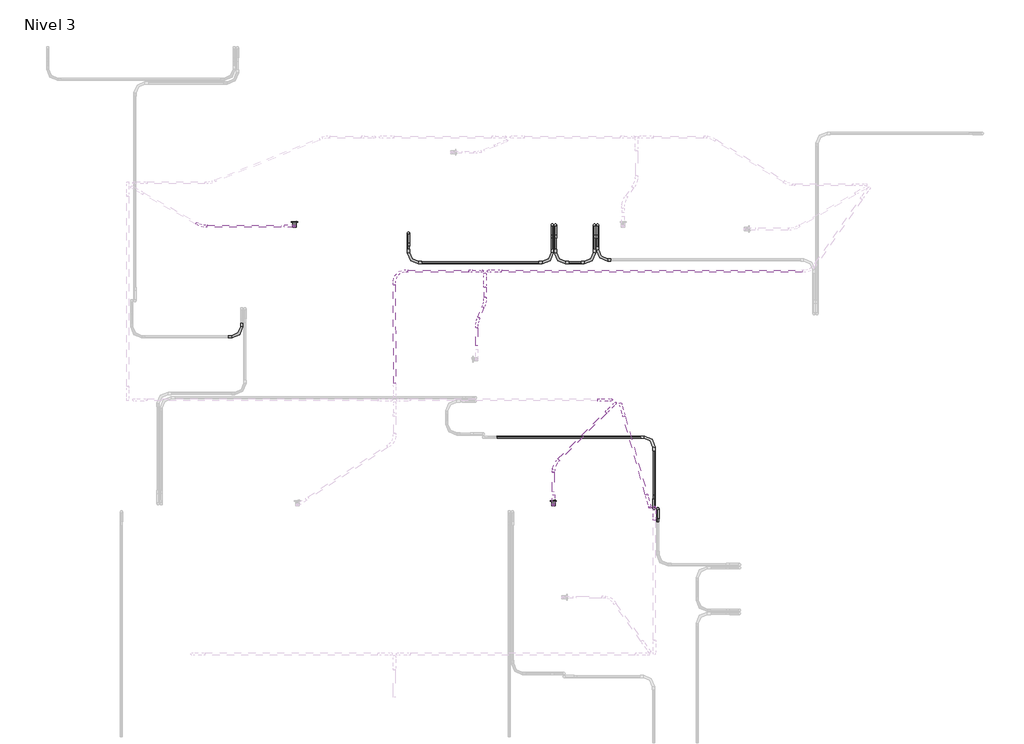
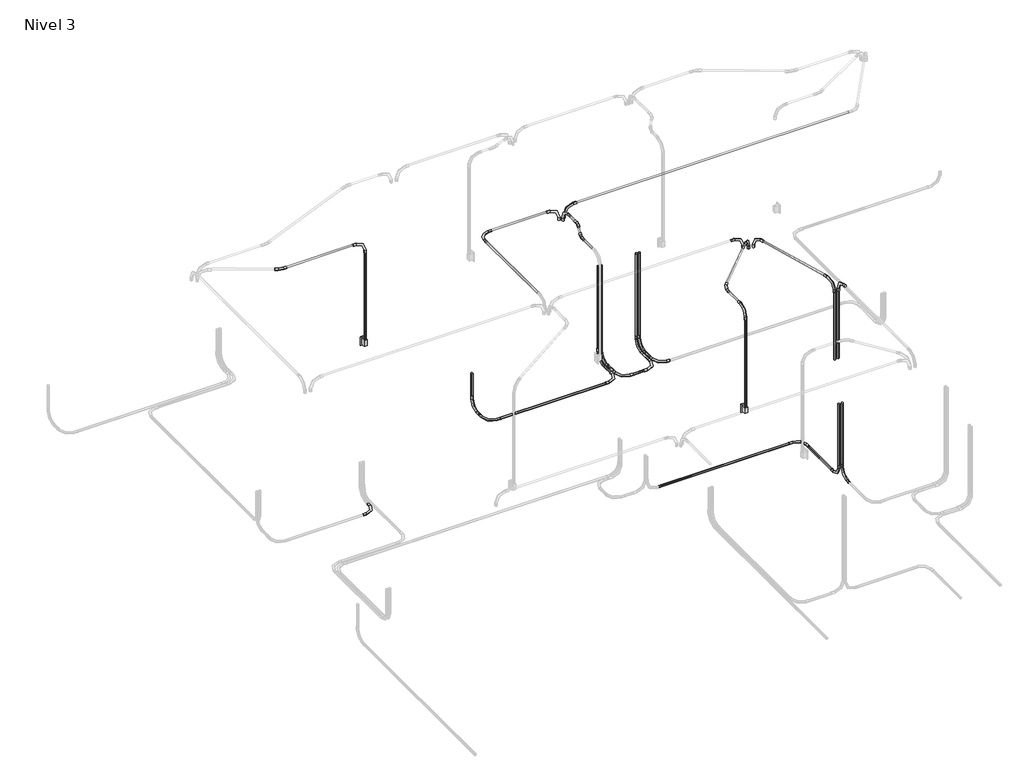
# One storey, part 8 of 9: 30 cable carrier segments, 29 cable carrier fittings, 2 switching devices.
"""IFC4 building model written with IfcOpenShell, lengths in millimetres."""

from ifc_helpers import new_model, si_unit, point, frame, frame_2d, origin, place, context, project, spatial, circle_curve, trimmed, segment, composite_curve, outline, extrude, transform, mapped, element, save
from components import m_codo_de_tubo_extremo_liso_pvc_9da73e12, m_codo_de_tubo_extremo_liso_pvc_102f0f41, m_codo_de_tubo_extremo_liso_pvc_251627db, m_codo_de_tubo_extremo_liso_pvc_2ef7902a, m_codo_de_tubo_extremo_liso_pvc_be22f626, m_codo_de_tubo_extremo_liso_pvc_8d6d9c39, switching_device_22fed34b

model = new_model("IFC4")

# Units and contexts
model_context = context("Model", 3, world=origin())
ifc_project = project(units=[si_unit("LENGTHUNIT", "METRE", prefix="MILLI")], contexts=[model_context])

# Site, building, storey
site = spatial("IfcSite", under=ifc_project)
building = spatial("IfcBuilding", under=site)
storey = spatial("IfcBuildingStorey", under=building, Name="Nivel 3", Elevation=5450.0)

# Cable carrier fittings
placement = place(None, origin())
m_codo_de_tubo_extremo_liso_pvc_shape = m_codo_de_tubo_extremo_liso_pvc_9da73e12(model_context)
element("IfcCableCarrierFitting", 1, ObjectType="M_Codo de tubo - Extremo liso - PVC : CODO POTENCIA", at=placement, inside=storey, context=model_context, shape_type="MappedRepresentation", body=[
    mapped(m_codo_de_tubo_extremo_liso_pvc_shape, transform((4205.019202, 15520.3628882, 5380.0), x_axis=(0.0, 0.0, -1.0), y_axis=(0.0, -1.0, 0.0), z_axis=(-1.0, 0.0, 0.0))),
])
element("IfcCableCarrierFitting", 2, ObjectType="M_Codo de tubo - Extremo liso - PVC : CODO POTENCIA", at=placement, inside=storey, context=model_context, shape_type="MappedRepresentation", body=[
    mapped(m_codo_de_tubo_extremo_liso_pvc_shape, transform((4241.0828417, 15520.3628882, 5380.0), x_axis=(0.0, 0.0, -1.0), y_axis=(0.0, -1.0, 0.0), z_axis=(-1.0, 0.0, 0.0))),
])
element("IfcCableCarrierFitting", 3, ObjectType="M_Codo de tubo - Extremo liso - PVC : CODO POTENCIA", at=placement, inside=storey, context=model_context, shape_type="MappedRepresentation", body=[
    mapped(m_codo_de_tubo_extremo_liso_pvc_shape, transform((4686.8857412, 15520.3628882, 5380.0), x_axis=(0.0, 0.0, -1.0), y_axis=(0.0, -1.0, 0.0), z_axis=(-1.0, 0.0, 0.0))),
])
element("IfcCableCarrierFitting", 4, ObjectType="M_Codo de tubo - Extremo liso - PVC : CODO POTENCIA", at=placement, inside=storey, context=model_context, shape_type="MappedRepresentation", body=[
    mapped(m_codo_de_tubo_extremo_liso_pvc_shape, transform((4722.9493809, 15520.3628882, 5380.0), x_axis=(0.0, 0.0, -1.0), y_axis=(0.0, -1.0, 0.0), z_axis=(-1.0, 0.0, 0.0))),
])
element("IfcCableCarrierFitting", 5, ObjectType="M_Codo de tubo - Extremo liso - PVC : CODO POTENCIA", at=placement, inside=storey, context=model_context, shape_type="MappedRepresentation", body=[
    mapped(m_codo_de_tubo_extremo_liso_pvc_shape, transform((2562.4928095, 15429.6371118, 5380.0), x_axis=(0.0, 0.0, -1.0), y_axis=(0.0, -1.0, 0.0), z_axis=(-1.0, 0.0, 0.0))),
])
element("IfcCableCarrierFitting", 6, ObjectType="M_Codo de tubo - Extremo liso - PVC : CODO POTENCIA", at=placement, inside=storey, context=model_context, shape_type="MappedRepresentation", body=[
    mapped(m_codo_de_tubo_extremo_liso_pvc_shape, transform((4205.019202, 15089.6371118, 5380.0), x_axis=(1.0, 0.0, 0.0), y_axis=(0.0, 1.0, 0.0), z_axis=(0.0, 0.0, 1.0))),
])
element("IfcCableCarrierFitting", 7, ObjectType="M_Codo de tubo - Extremo liso - PVC : CODO POTENCIA", at=placement, inside=storey, context=model_context, shape_type="MappedRepresentation", body=[
    mapped(m_codo_de_tubo_extremo_liso_pvc_shape, transform((2562.4928095, 15089.6371118, 5380.0), x_axis=(0.0, -1.0, 0.0), y_axis=(1.0, 0.0, 0.0), z_axis=(0.0, 0.0, 1.0))),
])
element("IfcCableCarrierFitting", 8, ObjectType="M_Codo de tubo - Extremo liso - PVC : CODO POTENCIA", at=placement, inside=storey, context=model_context, shape_type="MappedRepresentation", body=[
    mapped(m_codo_de_tubo_extremo_liso_pvc_shape, transform((4686.8857412, 15089.6371118, 5380.0), x_axis=(1.0, 0.0, 0.0), y_axis=(0.0, 1.0, 0.0), z_axis=(0.0, 0.0, 1.0))),
])
element("IfcCableCarrierFitting", 9, ObjectType="M_Codo de tubo - Extremo liso - PVC : CODO POTENCIA", at=placement, inside=storey, context=model_context, shape_type="MappedRepresentation", body=[
    mapped(m_codo_de_tubo_extremo_liso_pvc_shape, transform((4241.0828417, 15089.6371118, 5380.0), x_axis=(0.0, -1.0, 0.0), y_axis=(1.0, 0.0, 0.0), z_axis=(0.0, 0.0, 1.0))),
])
element("IfcCableCarrierFitting", 10, ObjectType="M_Codo de tubo - Extremo liso - PVC : CODO POTENCIA", at=placement, inside=storey, context=model_context, shape_type="MappedRepresentation", body=[
    mapped(m_codo_de_tubo_extremo_liso_pvc_shape, transform((4722.9493809, 15120.3628882, 5380.0), x_axis=(0.0, -1.0, 0.0), y_axis=(1.0, 0.0, 0.0), z_axis=(0.0, 0.0, 1.0))),
])
element("IfcCableCarrierFitting", 11, ObjectType="M_Codo de tubo - Extremo liso - PVC : CODO POTENCIA", at=placement, inside=storey, context=model_context, shape_type="MappedRepresentation", body=[
    mapped(m_codo_de_tubo_extremo_liso_pvc_shape, transform((5369.121413, 13095.2791789, 5380.0), x_axis=(0.0, 1.0, 0.0), y_axis=(-1.0, 0.0, 0.0), z_axis=(0.0, 0.0, 1.0))),
])
element("IfcCableCarrierFitting", 12, ObjectType="M_Codo de tubo - Extremo liso - PVC : CODO POTENCIA", at=placement, inside=storey, context=model_context, shape_type="MappedRepresentation", body=[
    mapped(m_codo_de_tubo_extremo_liso_pvc_shape, transform((657.4498733, 14243.117219, 5380.0), x_axis=(1.0, 0.0, 0.0), y_axis=(0.0, 1.0, 0.0), z_axis=(0.0, 0.0, 1.0))),
])
element("IfcCableCarrierFitting", 13, ObjectType="M_Codo de tubo - Extremo liso - PVC : CODO POTENCIA", at=placement, inside=storey, context=model_context, shape_type="MappedRepresentation", body=[
    mapped(m_codo_de_tubo_extremo_liso_pvc_shape, transform((5369.121413, 12279.3432469, 5380.0), x_axis=(0.0, -1.0, 0.0), y_axis=(0.0, 0.0, 1.0), z_axis=(-1.0, 0.0, 0.0))),
])
element("IfcCableCarrierFitting", 14, ObjectType="M_Codo de tubo - Extremo liso - PVC : CODO POTENCIA", at=placement, inside=storey, context=model_context, shape_type="MappedRepresentation", body=[
    mapped(m_codo_de_tubo_extremo_liso_pvc_shape, transform((5411.447338, 12279.3432469, 5380.0), x_axis=(0.0, 1.0, 0.0), y_axis=(0.0, 0.0, 1.0), z_axis=(1.0, 0.0, 0.0))),
])
element("IfcCableCarrierFitting", 15, ObjectType="M_Codo de tubo - Extremo liso - PVC : CODO ILUMINACION", at=placement, inside=storey, context=model_context, shape_type="MappedRepresentation", body=[
    mapped(m_codo_de_tubo_extremo_liso_pvc_shape, transform((3473.8320808, 14993.0705266, 8000.0), x_axis=(-1.0, 0.0, 0.0), y_axis=(0.0, 0.0, -1.0), z_axis=(0.0, -1.0, 0.0))),
])
element("IfcCableCarrierFitting", 16, ObjectType="M_Codo de tubo - Extremo liso - PVC : CODO ILUMINACION", at=placement, inside=storey, context=model_context, shape_type="MappedRepresentation", body=[
    mapped(m_codo_de_tubo_extremo_liso_pvc_shape, transform((1260.0916868, 15506.8611243, 8000.0), x_axis=(0.0, 0.0, 1.0), y_axis=(-1.0, 0.0, 0.0), z_axis=(0.0, -1.0, 0.0))),
])
element("IfcCableCarrierFitting", 17, ObjectType="M_Codo de tubo - Extremo liso - PVC : CODO ILUMINACION", at=placement, inside=storey, context=model_context, shape_type="MappedRepresentation", body=[
    mapped(m_codo_de_tubo_extremo_liso_pvc_shape, transform((4983.2376641, 13478.0991033, 8000.0), x_axis=(-0.27563735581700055, 0.9612616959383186, 0.0), y_axis=(0.0, 0.0, -1.0000000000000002), z_axis=(-0.9612616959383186, -0.27563735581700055, 0.0))),
])
element("IfcCableCarrierFitting", 18, ObjectType="M_Codo de tubo - Extremo liso - PVC : CODO ILUMINACION", at=placement, inside=storey, context=model_context, shape_type="MappedRepresentation", body=[
    mapped(m_codo_de_tubo_extremo_liso_pvc_shape, transform((4926.5703208, 13485.4270766, 8000.0), x_axis=(0.7071067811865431, 0.707106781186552, 0.0), y_axis=(0.0, 0.0, -1.0), z_axis=(-0.707106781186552, 0.7071067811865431, 0.0))),
])
element("IfcCableCarrierFitting", 19, ObjectType="M_Codo de tubo - Extremo liso - PVC : CODO ILUMINACION", at=placement, inside=storey, context=model_context, shape_type="MappedRepresentation", body=[
    mapped(m_codo_de_tubo_extremo_liso_pvc_shape, transform((5322.9331414, 12293.4401892, 8000.0), x_axis=(0.2756373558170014, -0.9612616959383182, 0.0), y_axis=(0.0, 0.0, -1.0), z_axis=(0.9612616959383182, 0.2756373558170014, 0.0))),
])
element("IfcCableCarrierFitting", 20, ObjectType="M_Codo de tubo - Extremo liso - PVC : CODO ILUMINACION", at=placement, inside=storey, context=model_context, shape_type="MappedRepresentation", body=[
    mapped(m_codo_de_tubo_extremo_liso_pvc_shape, transform((4218.3978911, 12321.8611243, 8000.0), x_axis=(0.0, 0.0, 1.0), y_axis=(0.0, 1.0, 0.0), z_axis=(-1.0, 0.0, 0.0))),
])
element("IfcCableCarrierFitting", 21, ObjectType="M_Codo de tubo - Extremo liso - PVC : CODO ILUMINACION", at=placement, inside=storey, context=model_context, shape_type="MappedRepresentation", body=[
    mapped(m_codo_de_tubo_extremo_liso_pvc_shape, transform((5372.6243482, 12295.9653349, 8000.0), x_axis=(0.0, 1.0, 0.0), y_axis=(0.0, 0.0, -1.0), z_axis=(-1.0, 0.0, 0.0))),
])
m_codo_de_tubo_extremo_liso_pvc_2_shape = m_codo_de_tubo_extremo_liso_pvc_102f0f41(model_context)
element("IfcCableCarrierFitting", 22, ObjectType="M_Codo de tubo - Extremo liso - PVC : CODO ILUMINACION", at=placement, inside=storey, context=model_context, shape_type="MappedRepresentation", body=[
    mapped(m_codo_de_tubo_extremo_liso_pvc_2_shape, transform((3405.7998975, 14991.7385915, 8000.0), x_axis=(1.0, 0.0, 0.0), y_axis=(0.0, 0.0, 1.0), z_axis=(0.0, -1.0, 0.0))),
])
element("IfcCableCarrierFitting", 23, ObjectType="M_Codo de tubo - Extremo liso - PVC : CODO ILUMINACION", at=placement, inside=storey, context=model_context, shape_type="MappedRepresentation", body=[
    mapped(m_codo_de_tubo_extremo_liso_pvc_2_shape, transform((4879.8406576, 13521.2601744, 8000.0), x_axis=(1.0, 0.0, 0.0), y_axis=(0.0, 0.0, 1.0), z_axis=(0.0, -1.0, 0.0))),
])
element("IfcCableCarrierFitting", 24, ObjectType="M_Codo de tubo - Extremo liso - PVC : CODO ILUMINACION", at=placement, inside=storey, context=model_context, shape_type="MappedRepresentation", body=[
    mapped(m_codo_de_tubo_extremo_liso_pvc_2_shape, transform((3437.3696394, 14959.3016042, 8000.0), x_axis=(0.0, 1.0, 0.0), y_axis=(0.0, 0.0, 1.0), z_axis=(1.0, 0.0, 0.0))),
])
m_codo_de_tubo_extremo_liso_pvc_3_shape = m_codo_de_tubo_extremo_liso_pvc_251627db(model_context)
element("IfcCableCarrierFitting", 25, ObjectType="M_Codo de tubo - Extremo liso - PVC : CODO ILUMINACION", at=placement, inside=storey, context=model_context, shape_type="MappedRepresentation", body=[
    mapped(m_codo_de_tubo_extremo_liso_pvc_3_shape, transform((196.8317011, 15506.8611243, 8000.0), x_axis=(0.8722808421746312, -0.48900524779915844, 0.0), y_axis=(0.48900524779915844, 0.8722808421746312, 0.0), z_axis=(0.0, 0.0, 1.0))),
])
m_codo_de_tubo_extremo_liso_pvc_4_shape = m_codo_de_tubo_extremo_liso_pvc_2ef7902a(model_context)
element("IfcCableCarrierFitting", 26, ObjectType="M_Codo de tubo - Extremo liso - PVC : CODO ILUMINACION", at=placement, inside=storey, context=model_context, shape_type="MappedRepresentation", body=[
    mapped(m_codo_de_tubo_extremo_liso_pvc_4_shape, transform((3437.3696394, 14633.0300725, 8000.0), x_axis=(0.38237306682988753, 0.924008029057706, 0.0), y_axis=(-0.924008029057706, 0.38237306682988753, 0.0), z_axis=(0.0, 0.0, 1.0))),
])
element("IfcCableCarrierFitting", 27, ObjectType="M_Codo de tubo - Extremo liso - PVC : CODO ILUMINACION", at=placement, inside=storey, context=model_context, shape_type="MappedRepresentation", body=[
    mapped(m_codo_de_tubo_extremo_liso_pvc_4_shape, transform((3343.1394564, 14405.3219698, 8000.0), x_axis=(-0.3823730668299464, -0.9240080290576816, 0.0), y_axis=(0.9240080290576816, -0.3823730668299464, 0.0), z_axis=(0.0, 0.0, 1.0))),
])
m_codo_de_tubo_extremo_liso_pvc_5_shape = m_codo_de_tubo_extremo_liso_pvc_be22f626(model_context)
element("IfcCableCarrierFitting", 28, ObjectType="M_Codo de tubo - Extremo liso - PVC : CODO ILUMINACION", at=placement, inside=storey, context=model_context, shape_type="MappedRepresentation", body=[
    mapped(m_codo_de_tubo_extremo_liso_pvc_5_shape, transform((2400.0109021, 14991.7385915, 8000.0), x_axis=(-1.0, 0.0, 0.0), y_axis=(0.0, -1.0, 0.0), z_axis=(0.0, 0.0, 1.0))),
])
m_codo_de_tubo_extremo_liso_pvc_6_shape = m_codo_de_tubo_extremo_liso_pvc_8d6d9c39(model_context)
element("IfcCableCarrierFitting", 29, ObjectType="M_Codo de tubo - Extremo liso - PVC : CODO ILUMINACION", at=placement, inside=storey, context=model_context, shape_type="MappedRepresentation", body=[
    mapped(m_codo_de_tubo_extremo_liso_pvc_6_shape, transform((4218.3978911, 12777.2546469, 8000.0), x_axis=(-0.7071067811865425, -0.7071067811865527, 0.0), y_axis=(0.7071067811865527, -0.7071067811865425, 0.0), z_axis=(0.0, 0.0, 1.0))),
])

# Cable carrier segments
element("IfcCableCarrierSegment", 30, ObjectType="PVC-SEL, POTENCIA", at=placement, inside=storey, context=model_context, shape_type="SweptSolid", body=[
    extrude(outline(composite_curve([segment(trimmed(circle_curve(frame_2d((5380.0, 4205.019202)), 11.71), [point((5380.0, 4193.309202))], [point((5368.29, 4205.019202))], False, "CARTESIAN"), True, "CONTINUOUS"), segment(trimmed(circle_curve(frame_2d((5380.0, 4205.019202)), 11.71), [point((5368.29, 4205.019202))], [point((5380.0, 4216.729202))], False, "CARTESIAN"), True, "CONTINUOUS"), segment(trimmed(circle_curve(frame_2d((5380.0, 4205.019202)), 11.71), [point((5380.0, 4216.729202))], [point((5391.71, 4205.019202))], False, "CARTESIAN"), True, "CONTINUOUS"), segment(trimmed(circle_curve(frame_2d((5380.0, 4205.019202)), 11.71), [point((5391.71, 4205.019202))], [point((5380.0, 4193.309202))], False, "CARTESIAN"), True, "CONTINUOUS")], self_intersect=False)), frame((0.0, 15242.0371118, 0.0), z_axis=(0.0, 1.0, 0.0), x_axis=(0.0, 0.0, 1.0)), (0.0, 0.0, 1.0), 125.9257764),
])
element("IfcCableCarrierSegment", 31, ObjectType="PVC-SEL, POTENCIA", at=placement, inside=storey, context=model_context, shape_type="SweptSolid", body=[
    extrude(outline(composite_curve([segment(trimmed(circle_curve(frame_2d((4205.019202, 15520.3628882)), 11.71), [point((4216.729202, 15520.3628882))], [point((4205.019202, 15508.6528882))], False, "CARTESIAN"), True, "CONTINUOUS"), segment(trimmed(circle_curve(frame_2d((4205.019202, 15520.3628882)), 11.71), [point((4205.019202, 15508.6528882))], [point((4193.309202, 15520.3628882))], False, "CARTESIAN"), True, "CONTINUOUS"), segment(trimmed(circle_curve(frame_2d((4205.019202, 15520.3628882)), 11.71), [point((4193.309202, 15520.3628882))], [point((4205.019202, 15532.0728882))], False, "CARTESIAN"), True, "CONTINUOUS"), segment(trimmed(circle_curve(frame_2d((4205.019202, 15520.3628882)), 11.71), [point((4205.019202, 15532.0728882))], [point((4216.729202, 15520.3628882))], False, "CARTESIAN"), True, "CONTINUOUS")], self_intersect=False)), frame((0.0, 0.0, 5532.4), z_axis=(0.0, 0.0, 1.0), x_axis=(1.0, 0.0, 0.0)), (0.0, 0.0, 1.0), 1097.3020537),
])
element("IfcCableCarrierSegment", 32, ObjectType="PVC-SEL, POTENCIA", at=placement, inside=storey, context=model_context, shape_type="SweptSolid", body=[
    extrude(outline(composite_curve([segment(trimmed(circle_curve(frame_2d((5380.0, 4241.0828417)), 11.71), [point((5380.0, 4229.3728417))], [point((5368.29, 4241.0828417))], False, "CARTESIAN"), True, "CONTINUOUS"), segment(trimmed(circle_curve(frame_2d((5380.0, 4241.0828417)), 11.71), [point((5368.29, 4241.0828417))], [point((5380.0, 4252.7928417))], False, "CARTESIAN"), True, "CONTINUOUS"), segment(trimmed(circle_curve(frame_2d((5380.0, 4241.0828417)), 11.71), [point((5380.0, 4252.7928417))], [point((5391.71, 4241.0828417))], False, "CARTESIAN"), True, "CONTINUOUS"), segment(trimmed(circle_curve(frame_2d((5380.0, 4241.0828417)), 11.71), [point((5391.71, 4241.0828417))], [point((5380.0, 4229.3728417))], False, "CARTESIAN"), True, "CONTINUOUS")], self_intersect=False)), frame((0.0, 15242.0371118, 0.0), z_axis=(0.0, 1.0, 0.0), x_axis=(0.0, 0.0, 1.0)), (0.0, 0.0, 1.0), 125.9257764),
])
element("IfcCableCarrierSegment", 33, ObjectType="PVC-SEL, POTENCIA", at=placement, inside=storey, context=model_context, shape_type="SweptSolid", body=[
    extrude(outline(composite_curve([segment(trimmed(circle_curve(frame_2d((4241.0828417, 15520.3628882)), 11.71), [point((4252.7928417, 15520.3628882))], [point((4241.0828417, 15508.6528882))], False, "CARTESIAN"), True, "CONTINUOUS"), segment(trimmed(circle_curve(frame_2d((4241.0828417, 15520.3628882)), 11.71), [point((4241.0828417, 15508.6528882))], [point((4229.3728417, 15520.3628882))], False, "CARTESIAN"), True, "CONTINUOUS"), segment(trimmed(circle_curve(frame_2d((4241.0828417, 15520.3628882)), 11.71), [point((4229.3728417, 15520.3628882))], [point((4241.0828417, 15532.0728882))], False, "CARTESIAN"), True, "CONTINUOUS"), segment(trimmed(circle_curve(frame_2d((4241.0828417, 15520.3628882)), 11.71), [point((4241.0828417, 15532.0728882))], [point((4252.7928417, 15520.3628882))], False, "CARTESIAN"), True, "CONTINUOUS")], self_intersect=False)), frame((0.0, 0.0, 5532.4), z_axis=(0.0, 0.0, 1.0), x_axis=(1.0, 0.0, 0.0)), (0.0, 0.0, 1.0), 1097.3020537),
])
element("IfcCableCarrierSegment", 34, ObjectType="PVC-SEL, POTENCIA", at=placement, inside=storey, context=model_context, shape_type="SweptSolid", body=[
    extrude(outline(composite_curve([segment(trimmed(circle_curve(frame_2d((5380.0, 4686.8857412)), 11.71), [point((5380.0, 4675.1757412))], [point((5368.29, 4686.8857412))], False, "CARTESIAN"), True, "CONTINUOUS"), segment(trimmed(circle_curve(frame_2d((5380.0, 4686.8857412)), 11.71), [point((5368.29, 4686.8857412))], [point((5380.0, 4698.5957412))], False, "CARTESIAN"), True, "CONTINUOUS"), segment(trimmed(circle_curve(frame_2d((5380.0, 4686.8857412)), 11.71), [point((5380.0, 4698.5957412))], [point((5391.71, 4686.8857412))], False, "CARTESIAN"), True, "CONTINUOUS"), segment(trimmed(circle_curve(frame_2d((5380.0, 4686.8857412)), 11.71), [point((5391.71, 4686.8857412))], [point((5380.0, 4675.1757412))], False, "CARTESIAN"), True, "CONTINUOUS")], self_intersect=False)), frame((0.0, 15242.0371118, 0.0), z_axis=(0.0, 1.0, 0.0), x_axis=(0.0, 0.0, 1.0)), (0.0, 0.0, 1.0), 125.9257764),
])
element("IfcCableCarrierSegment", 35, ObjectType="PVC-SEL, POTENCIA", at=placement, inside=storey, context=model_context, shape_type="SweptSolid", body=[
    extrude(outline(composite_curve([segment(trimmed(circle_curve(frame_2d((4686.8857412, 15520.3628882)), 11.71), [point((4698.5957412, 15520.3628882))], [point((4686.8857412, 15508.6528882))], False, "CARTESIAN"), True, "CONTINUOUS"), segment(trimmed(circle_curve(frame_2d((4686.8857412, 15520.3628882)), 11.71), [point((4686.8857412, 15508.6528882))], [point((4675.1757412, 15520.3628882))], False, "CARTESIAN"), True, "CONTINUOUS"), segment(trimmed(circle_curve(frame_2d((4686.8857412, 15520.3628882)), 11.71), [point((4675.1757412, 15520.3628882))], [point((4686.8857412, 15532.0728882))], False, "CARTESIAN"), True, "CONTINUOUS"), segment(trimmed(circle_curve(frame_2d((4686.8857412, 15520.3628882)), 11.71), [point((4686.8857412, 15532.0728882))], [point((4698.5957412, 15520.3628882))], False, "CARTESIAN"), True, "CONTINUOUS")], self_intersect=False)), frame((0.0, 0.0, 5532.4), z_axis=(0.0, 0.0, 1.0), x_axis=(1.0, 0.0, 0.0)), (0.0, 0.0, 1.0), 1097.3020537),
])
element("IfcCableCarrierSegment", 36, ObjectType="PVC-SEL, POTENCIA", at=placement, inside=storey, context=model_context, shape_type="SweptSolid", body=[
    extrude(outline(composite_curve([segment(trimmed(circle_curve(frame_2d((5380.0, 4722.9493809)), 11.71), [point((5380.0, 4711.2393809))], [point((5368.29, 4722.9493809))], False, "CARTESIAN"), True, "CONTINUOUS"), segment(trimmed(circle_curve(frame_2d((5380.0, 4722.9493809)), 11.71), [point((5368.29, 4722.9493809))], [point((5380.0, 4734.6593809))], False, "CARTESIAN"), True, "CONTINUOUS"), segment(trimmed(circle_curve(frame_2d((5380.0, 4722.9493809)), 11.71), [point((5380.0, 4734.6593809))], [point((5391.71, 4722.9493809))], False, "CARTESIAN"), True, "CONTINUOUS"), segment(trimmed(circle_curve(frame_2d((5380.0, 4722.9493809)), 11.71), [point((5391.71, 4722.9493809))], [point((5380.0, 4711.2393809))], False, "CARTESIAN"), True, "CONTINUOUS")], self_intersect=False)), frame((0.0, 15272.7628882, 0.0), z_axis=(0.0, 1.0, 0.0), x_axis=(0.0, 0.0, 1.0)), (0.0, 0.0, 1.0), 95.2),
])
element("IfcCableCarrierSegment", 37, ObjectType="PVC-SEL, POTENCIA", at=placement, inside=storey, context=model_context, shape_type="SweptSolid", body=[
    extrude(outline(composite_curve([segment(trimmed(circle_curve(frame_2d((4722.9493809, 15520.3628882)), 11.71), [point((4734.6593809, 15520.3628882))], [point((4722.9493809, 15508.6528882))], False, "CARTESIAN"), True, "CONTINUOUS"), segment(trimmed(circle_curve(frame_2d((4722.9493809, 15520.3628882)), 11.71), [point((4722.9493809, 15508.6528882))], [point((4711.2393809, 15520.3628882))], False, "CARTESIAN"), True, "CONTINUOUS"), segment(trimmed(circle_curve(frame_2d((4722.9493809, 15520.3628882)), 11.71), [point((4711.2393809, 15520.3628882))], [point((4722.9493809, 15532.0728882))], False, "CARTESIAN"), True, "CONTINUOUS"), segment(trimmed(circle_curve(frame_2d((4722.9493809, 15520.3628882)), 11.71), [point((4722.9493809, 15532.0728882))], [point((4734.6593809, 15520.3628882))], False, "CARTESIAN"), True, "CONTINUOUS")], self_intersect=False)), frame((0.0, 0.0, 5532.4), z_axis=(0.0, 0.0, 1.0), x_axis=(1.0, 0.0, 0.0)), (0.0, 0.0, 1.0), 1097.3020537),
])
element("IfcCableCarrierSegment", 38, ObjectType="PVC-SEL, POTENCIA", at=placement, inside=storey, context=model_context, shape_type="SweptSolid", body=[
    extrude(outline(composite_curve([segment(trimmed(circle_curve(frame_2d((5380.0, 2562.4928095)), 11.71), [point((5380.0, 2550.7828095))], [point((5368.29, 2562.4928095))], False, "CARTESIAN"), True, "CONTINUOUS"), segment(trimmed(circle_curve(frame_2d((5380.0, 2562.4928095)), 11.71), [point((5368.29, 2562.4928095))], [point((5380.0, 2574.2028095))], False, "CARTESIAN"), True, "CONTINUOUS"), segment(trimmed(circle_curve(frame_2d((5380.0, 2562.4928095)), 11.71), [point((5380.0, 2574.2028095))], [point((5391.71, 2562.4928095))], False, "CARTESIAN"), True, "CONTINUOUS"), segment(trimmed(circle_curve(frame_2d((5380.0, 2562.4928095)), 11.71), [point((5391.71, 2562.4928095))], [point((5380.0, 2550.7828095))], False, "CARTESIAN"), True, "CONTINUOUS")], self_intersect=False)), frame((0.0, 15242.0371118, 0.0), z_axis=(0.0, 1.0, 0.0), x_axis=(0.0, 0.0, 1.0)), (0.0, 0.0, 1.0), 35.2),
])
element("IfcCableCarrierSegment", 39, ObjectType="PVC-SEL, POTENCIA", at=placement, inside=storey, context=model_context, shape_type="SweptSolid", body=[
    extrude(outline(composite_curve([segment(trimmed(circle_curve(frame_2d((2562.4928095, 15429.6371118)), 11.71), [point((2574.2028095, 15429.6371118))], [point((2562.4928095, 15417.9271118))], False, "CARTESIAN"), True, "CONTINUOUS"), segment(trimmed(circle_curve(frame_2d((2562.4928095, 15429.6371118)), 11.71), [point((2562.4928095, 15417.9271118))], [point((2550.7828095, 15429.6371118))], False, "CARTESIAN"), True, "CONTINUOUS"), segment(trimmed(circle_curve(frame_2d((2562.4928095, 15429.6371118)), 11.71), [point((2550.7828095, 15429.6371118))], [point((2562.4928095, 15441.3471118))], False, "CARTESIAN"), True, "CONTINUOUS"), segment(trimmed(circle_curve(frame_2d((2562.4928095, 15429.6371118)), 11.71), [point((2562.4928095, 15441.3471118))], [point((2574.2028095, 15429.6371118))], False, "CARTESIAN"), True, "CONTINUOUS")], self_intersect=False)), frame((0.0, 0.0, 5532.4), z_axis=(0.0, 0.0, 1.0), x_axis=(1.0, 0.0, 0.0)), (0.0, 0.0, 1.0), 297.3020537),
])
element("IfcCableCarrierSegment", 40, ObjectType="PVC-SEL, POTENCIA", at=placement, inside=storey, context=model_context, shape_type="SweptSolid", body=[
    extrude(outline(composite_curve([segment(trimmed(circle_curve(frame_2d((15089.6371118, 5380.0)), 11.71), [point((15101.3471118, 5380.0))], [point((15089.6371118, 5368.29))], False, "CARTESIAN"), True, "CONTINUOUS"), segment(trimmed(circle_curve(frame_2d((15089.6371118, 5380.0)), 11.71), [point((15089.6371118, 5368.29))], [point((15077.9271118, 5380.0))], False, "CARTESIAN"), True, "CONTINUOUS"), segment(trimmed(circle_curve(frame_2d((15089.6371118, 5380.0)), 11.71), [point((15077.9271118, 5380.0))], [point((15089.6371118, 5391.71))], False, "CARTESIAN"), True, "CONTINUOUS"), segment(trimmed(circle_curve(frame_2d((15089.6371118, 5380.0)), 11.71), [point((15089.6371118, 5391.71))], [point((15101.3471118, 5380.0))], False, "CARTESIAN"), True, "CONTINUOUS")], self_intersect=False)), frame((2714.8928095, 0.0, 0.0), z_axis=(1.0, 0.0, 0.0), x_axis=(0.0, 1.0, 0.0)), (0.0, 0.0, 1.0), 1337.7263925),
])
element("IfcCableCarrierSegment", 41, ObjectType="PVC-SEL, POTENCIA", at=placement, inside=storey, context=model_context, shape_type="SweptSolid", body=[
    extrude(outline(composite_curve([segment(trimmed(circle_curve(frame_2d((15089.6371118, 5380.0)), 11.71), [point((15101.3471118, 5380.0))], [point((15089.6371118, 5368.29))], False, "CARTESIAN"), True, "CONTINUOUS"), segment(trimmed(circle_curve(frame_2d((15089.6371118, 5380.0)), 11.71), [point((15089.6371118, 5368.29))], [point((15077.9271118, 5380.0))], False, "CARTESIAN"), True, "CONTINUOUS"), segment(trimmed(circle_curve(frame_2d((15089.6371118, 5380.0)), 11.71), [point((15077.9271118, 5380.0))], [point((15089.6371118, 5391.71))], False, "CARTESIAN"), True, "CONTINUOUS"), segment(trimmed(circle_curve(frame_2d((15089.6371118, 5380.0)), 11.71), [point((15089.6371118, 5391.71))], [point((15101.3471118, 5380.0))], False, "CARTESIAN"), True, "CONTINUOUS")], self_intersect=False)), frame((4393.4828417, 0.0, 0.0), z_axis=(1.0, 0.0, 0.0), x_axis=(0.0, 1.0, 0.0)), (0.0, 0.0, 1.0), 141.0028996),
])
element("IfcCableCarrierSegment", 42, ObjectType="PVC-SEL, POTENCIA", at=placement, inside=storey, context=model_context, shape_type="SweptSolid", body=[
    extrude(outline(composite_curve([segment(trimmed(circle_curve(frame_2d((13095.2791789, 5380.0)), 11.71), [point((13083.5691789, 5380.0))], [point((13095.2791789, 5391.71))], False, "CARTESIAN"), True, "CONTINUOUS"), segment(trimmed(circle_curve(frame_2d((13095.2791789, 5380.0)), 11.71), [point((13095.2791789, 5391.71))], [point((13106.9891789, 5380.0))], False, "CARTESIAN"), True, "CONTINUOUS"), segment(trimmed(circle_curve(frame_2d((13095.2791789, 5380.0)), 11.71), [point((13106.9891789, 5380.0))], [point((13095.2791789, 5368.29))], False, "CARTESIAN"), True, "CONTINUOUS"), segment(trimmed(circle_curve(frame_2d((13095.2791789, 5380.0)), 11.71), [point((13095.2791789, 5368.29))], [point((13083.5691789, 5380.0))], False, "CARTESIAN"), True, "CONTINUOUS")], self_intersect=False)), frame((3572.763469, 0.0, 0.0), z_axis=(1.0, 0.0, 0.0), x_axis=(0.0, 1.0, 0.0)), (0.0, 0.0, 1.0), 1643.957944),
])
element("IfcCableCarrierSegment", 43, ObjectType="PVC-SEL, POTENCIA", at=placement, inside=storey, context=model_context, shape_type="SweptSolid", body=[
    extrude(outline(composite_curve([segment(trimmed(circle_curve(frame_2d((5380.0, 5369.121413)), 11.71), [point((5380.0, 5357.411413))], [point((5368.29, 5369.121413))], False, "CARTESIAN"), True, "CONTINUOUS"), segment(trimmed(circle_curve(frame_2d((5380.0, 5369.121413)), 11.71), [point((5368.29, 5369.121413))], [point((5380.0, 5380.831413))], False, "CARTESIAN"), True, "CONTINUOUS"), segment(trimmed(circle_curve(frame_2d((5380.0, 5369.121413)), 11.71), [point((5380.0, 5380.831413))], [point((5391.71, 5369.121413))], False, "CARTESIAN"), True, "CONTINUOUS"), segment(trimmed(circle_curve(frame_2d((5380.0, 5369.121413)), 11.71), [point((5391.71, 5369.121413))], [point((5380.0, 5357.411413))], False, "CARTESIAN"), True, "CONTINUOUS")], self_intersect=False)), frame((0.0, 12431.7432469, 0.0), z_axis=(0.0, 1.0, 0.0), x_axis=(0.0, 0.0, 1.0)), (0.0, 0.0, 1.0), 511.135932),
])
element("IfcCableCarrierSegment", 44, ObjectType="PVC-SEL, POTENCIA", at=placement, inside=storey, context=model_context, shape_type="SweptSolid", body=[
    extrude(outline(composite_curve([segment(trimmed(circle_curve(frame_2d((5369.121413, 12279.3432469)), 11.71), [point((5357.411413, 12279.3432469))], [point((5369.121413, 12291.0532469))], False, "CARTESIAN"), True, "CONTINUOUS"), segment(trimmed(circle_curve(frame_2d((5369.121413, 12279.3432469)), 11.71), [point((5369.121413, 12291.0532469))], [point((5380.831413, 12279.3432469))], False, "CARTESIAN"), True, "CONTINUOUS"), segment(trimmed(circle_curve(frame_2d((5369.121413, 12279.3432469)), 11.71), [point((5380.831413, 12279.3432469))], [point((5369.121413, 12267.6332469))], False, "CARTESIAN"), True, "CONTINUOUS"), segment(trimmed(circle_curve(frame_2d((5369.121413, 12279.3432469)), 11.71), [point((5369.121413, 12267.6332469))], [point((5357.411413, 12279.3432469))], False, "CARTESIAN"), True, "CONTINUOUS")], self_intersect=False)), frame((0.0, 0.0, 5532.4), z_axis=(0.0, 0.0, 1.0), x_axis=(1.0, 0.0, 0.0)), (0.0, 0.0, 1.0), 817.6),
])
element("IfcCableCarrierSegment", 45, ObjectType="PVC-SEL, POTENCIA", at=placement, inside=storey, context=model_context, shape_type="SweptSolid", body=[
    extrude(outline(composite_curve([segment(trimmed(circle_curve(frame_2d((5411.447338, 12279.3432469)), 11.71), [point((5399.737338, 12279.3432469))], [point((5411.447338, 12291.0532469))], False, "CARTESIAN"), True, "CONTINUOUS"), segment(trimmed(circle_curve(frame_2d((5411.447338, 12279.3432469)), 11.71), [point((5411.447338, 12291.0532469))], [point((5423.157338, 12279.3432469))], False, "CARTESIAN"), True, "CONTINUOUS"), segment(trimmed(circle_curve(frame_2d((5411.447338, 12279.3432469)), 11.71), [point((5423.157338, 12279.3432469))], [point((5411.447338, 12267.6332469))], False, "CARTESIAN"), True, "CONTINUOUS"), segment(trimmed(circle_curve(frame_2d((5411.447338, 12279.3432469)), 11.71), [point((5411.447338, 12267.6332469))], [point((5399.737338, 12279.3432469))], False, "CARTESIAN"), True, "CONTINUOUS")], self_intersect=False)), frame((0.0, 0.0, 5532.4), z_axis=(0.0, 0.0, 1.0), x_axis=(1.0, 0.0, 0.0)), (0.0, 0.0, 1.0), 817.6),
])
element("IfcCableCarrierSegment", 46, ObjectType="PVC-SEL ILUMINACION", at=placement, inside=storey, context=model_context, shape_type="SweptSolid", body=[
    extrude(outline(composite_curve([segment(trimmed(circle_curve(frame_2d((14993.0705266, 8000.0)), 11.71), [point((14981.3605266, 8000.0))], [point((14993.0705266, 8011.71))], False, "CARTESIAN"), True, "CONTINUOUS"), segment(trimmed(circle_curve(frame_2d((14993.0705266, 8000.0)), 11.71), [point((14993.0705266, 8011.71))], [point((15004.7805266, 8000.0))], False, "CARTESIAN"), True, "CONTINUOUS"), segment(trimmed(circle_curve(frame_2d((14993.0705266, 8000.0)), 11.71), [point((15004.7805266, 8000.0))], [point((14993.0705266, 7988.29))], False, "CARTESIAN"), True, "CONTINUOUS"), segment(trimmed(circle_curve(frame_2d((14993.0705266, 8000.0)), 11.71), [point((14993.0705266, 7988.29))], [point((14981.3605266, 8000.0))], False, "CARTESIAN"), True, "CONTINUOUS")], self_intersect=False)), frame((3626.2320808, 0.0, 0.0), z_axis=(1.0, 0.0, 0.0), x_axis=(0.0, 1.0, 0.0)), (0.0, 0.0, 1.0), 3435.9373975),
])
element("IfcCableCarrierSegment", 47, ObjectType="PVC-SEL ILUMINACION", at=placement, inside=storey, context=model_context, shape_type="SweptSolid", body=[
    extrude(outline(composite_curve([segment(trimmed(circle_curve(frame_2d((15506.8611243, 8000.0)), 11.71), [point((15518.5711243, 8000.0))], [point((15506.8611243, 7988.29))], False, "CARTESIAN"), True, "CONTINUOUS"), segment(trimmed(circle_curve(frame_2d((15506.8611243, 8000.0)), 11.71), [point((15506.8611243, 7988.29))], [point((15495.1511243, 8000.0))], False, "CARTESIAN"), True, "CONTINUOUS"), segment(trimmed(circle_curve(frame_2d((15506.8611243, 8000.0)), 11.71), [point((15495.1511243, 8000.0))], [point((15506.8611243, 8011.71))], False, "CARTESIAN"), True, "CONTINUOUS"), segment(trimmed(circle_curve(frame_2d((15506.8611243, 8000.0)), 11.71), [point((15506.8611243, 8011.71))], [point((15518.5711243, 8000.0))], False, "CARTESIAN"), True, "CONTINUOUS")], self_intersect=False)), frame((264.7847545, 0.0, 0.0), z_axis=(1.0, 0.0, 0.0), x_axis=(0.0, 1.0, 0.0)), (0.0, 0.0, 1.0), 842.9069324),
])
element("IfcCableCarrierSegment", 48, ObjectType="PVC-SEL ILUMINACION", at=placement, inside=storey, context=model_context, shape_type="SweptSolid", body=[
    extrude(outline(composite_curve([segment(trimmed(circle_curve(frame_2d((1260.0916868, 15506.8611243)), 11.71), [point((1248.3816868, 15506.8611243))], [point((1260.0916868, 15518.5711243))], False, "CARTESIAN"), True, "CONTINUOUS"), segment(trimmed(circle_curve(frame_2d((1260.0916868, 15506.8611243)), 11.71), [point((1260.0916868, 15518.5711243))], [point((1271.8016868, 15506.8611243))], False, "CARTESIAN"), True, "CONTINUOUS"), segment(trimmed(circle_curve(frame_2d((1260.0916868, 15506.8611243)), 11.71), [point((1271.8016868, 15506.8611243))], [point((1260.0916868, 15495.1511243))], False, "CARTESIAN"), True, "CONTINUOUS"), segment(trimmed(circle_curve(frame_2d((1260.0916868, 15506.8611243)), 11.71), [point((1260.0916868, 15495.1511243))], [point((1248.3816868, 15506.8611243))], False, "CARTESIAN"), True, "CONTINUOUS")], self_intersect=False)), frame((0.0, 0.0, 6690.2227463), z_axis=(0.0, 0.0, 1.0), x_axis=(1.0, 0.0, 0.0)), (0.0, 0.0, 1.0), 1157.3772537),
])
element("IfcCableCarrierSegment", 49, ObjectType="PVC-SEL ILUMINACION", at=placement, inside=storey, context=model_context, shape_type="SweptSolid", body=[
    extrude(outline(composite_curve([segment(trimmed(circle_curve(frame_2d((8000.0, 3343.1394564)), 11.71), [point((8000.0, 3354.8494564))], [point((8011.71, 3343.1394564))], False, "CARTESIAN"), True, "CONTINUOUS"), segment(trimmed(circle_curve(frame_2d((8000.0, 3343.1394564)), 11.71), [point((8011.71, 3343.1394564))], [point((8000.0, 3331.4294564))], False, "CARTESIAN"), True, "CONTINUOUS"), segment(trimmed(circle_curve(frame_2d((8000.0, 3343.1394564)), 11.71), [point((8000.0, 3331.4294564))], [point((7988.29, 3343.1394564))], False, "CARTESIAN"), True, "CONTINUOUS"), segment(trimmed(circle_curve(frame_2d((8000.0, 3343.1394564)), 11.71), [point((7988.29, 3343.1394564))], [point((8000.0, 3354.8494564))], False, "CARTESIAN"), True, "CONTINUOUS")], self_intersect=False)), frame((0.0, 14137.7219698, 0.0), z_axis=(0.0, 1.0, 0.0), x_axis=(0.0, 0.0, 1.0)), (0.0, 0.0, 1.0), 206.7842728),
])
element("IfcCableCarrierSegment", 50, ObjectType="PVC-SEL ILUMINACION", at=placement, inside=storey, context=model_context, shape_type="SweptSolid", body=[
    extrude(outline(composite_curve([segment(trimmed(circle_curve(frame_2d((0.0, -11.71)), 11.71), [point((-11.71, -11.71))], [point((0.0, 0.0))], False, "CARTESIAN"), True, "CONTINUOUS"), segment(trimmed(circle_curve(frame_2d((0.0, -11.71)), 11.71), [point((0.0, 0.0))], [point((11.71, -11.71))], False, "CARTESIAN"), True, "CONTINUOUS"), segment(trimmed(circle_curve(frame_2d((0.0, -11.71)), 11.71), [point((11.71, -11.71))], [point((0.0, -23.42))], False, "CARTESIAN"), True, "CONTINUOUS"), segment(trimmed(circle_curve(frame_2d((0.0, -11.71)), 11.71), [point((0.0, -23.42))], [point((-11.71, -11.71))], False, "CARTESIAN"), True, "CONTINUOUS")], self_intersect=False)), frame((3366.3937526, 14461.51619, 7988.29), z_axis=(0.3823730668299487, 0.9240080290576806, 0.0), x_axis=(0.9240080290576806, -0.3823730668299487, 0.0)), (0.0, 0.0, 1.0), 124.8037448),
])
element("IfcCableCarrierSegment", 51, ObjectType="PVC-SEL ILUMINACION", at=placement, inside=storey, context=model_context, shape_type="SweptSolid", body=[
    extrude(outline(composite_curve([segment(trimmed(circle_curve(frame_2d((8000.0, 3437.3696394)), 11.71), [point((8000.0, 3425.6596394))], [point((7988.29, 3437.3696394))], False, "CARTESIAN"), True, "CONTINUOUS"), segment(trimmed(circle_curve(frame_2d((8000.0, 3437.3696394)), 11.71), [point((7988.29, 3437.3696394))], [point((8000.0, 3449.0796394))], False, "CARTESIAN"), True, "CONTINUOUS"), segment(trimmed(circle_curve(frame_2d((8000.0, 3437.3696394)), 11.71), [point((8000.0, 3449.0796394))], [point((8011.71, 3437.3696394))], False, "CARTESIAN"), True, "CONTINUOUS"), segment(trimmed(circle_curve(frame_2d((8000.0, 3437.3696394)), 11.71), [point((8011.71, 3437.3696394))], [point((8000.0, 3425.6596394))], False, "CARTESIAN"), True, "CONTINUOUS")], self_intersect=False)), frame((0.0, 14693.8457997, 0.0), z_axis=(0.0, 1.0, 0.0), x_axis=(0.0, 0.0, 1.0)), (0.0, 0.0, 1.0), 113.0558045),
])
element("IfcCableCarrierSegment", 52, ObjectType="PVC-SEL ILUMINACION", at=placement, inside=storey, context=model_context, shape_type="SweptSolid", body=[
    extrude(outline(composite_curve([segment(trimmed(circle_curve(frame_2d((0.0, -11.71)), 11.71), [point((-11.7099999, -11.71))], [point((0.0, 0.0))], False, "CARTESIAN"), True, "CONTINUOUS"), segment(trimmed(circle_curve(frame_2d((0.0, -11.71)), 11.71), [point((0.0, 0.0))], [point((11.71, -11.71))], False, "CARTESIAN"), True, "CONTINUOUS"), segment(trimmed(circle_curve(frame_2d((0.0, -11.71)), 11.71), [point((11.71, -11.71))], [point((0.0, -23.42))], False, "CARTESIAN"), True, "CONTINUOUS"), segment(trimmed(circle_curve(frame_2d((0.0, -11.71)), 11.71), [point((0.0, -23.42))], [point((-11.7099999, -11.71))], False, "CARTESIAN"), True, "CONTINUOUS")], self_intersect=False)), frame((2404.657361, 13709.8881456, 7988.29), z_axis=(-0.003624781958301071, 0.9999934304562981, 0.0), x_axis=(0.9999934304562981, 0.003624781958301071, 0.0)), (0.0, 0.0, 1.0), 1129.043801),
])
element("IfcCableCarrierSegment", 53, ObjectType="PVC-SEL ILUMINACION", at=placement, inside=storey, context=model_context, shape_type="SweptSolid", body=[
    extrude(outline(composite_curve([segment(trimmed(circle_curve(frame_2d((14991.7385915, 8000.0)), 11.71), [point((15003.4485915, 8000.0))], [point((14991.7385915, 7988.29))], False, "CARTESIAN"), True, "CONTINUOUS"), segment(trimmed(circle_curve(frame_2d((14991.7385915, 8000.0)), 11.71), [point((14991.7385915, 7988.29))], [point((14980.0285915, 8000.0))], False, "CARTESIAN"), True, "CONTINUOUS"), segment(trimmed(circle_curve(frame_2d((14991.7385915, 8000.0)), 11.71), [point((14980.0285915, 8000.0))], [point((14991.7385915, 8011.71))], False, "CARTESIAN"), True, "CONTINUOUS"), segment(trimmed(circle_curve(frame_2d((14991.7385915, 8000.0)), 11.71), [point((14991.7385915, 8011.71))], [point((15003.4485915, 8000.0))], False, "CARTESIAN"), True, "CONTINUOUS")], self_intersect=False)), frame((2552.8259683, 0.0, 0.0), z_axis=(1.0, 0.0, 0.0), x_axis=(0.0, 1.0, 0.0)), (0.0, 0.0, 1.0), 700.5739292),
])
element("IfcCableCarrierSegment", 54, ObjectType="PVC-SEL ILUMINACION", at=placement, inside=storey, context=model_context, shape_type="SweptSolid", body=[
    extrude(outline(composite_curve([segment(trimmed(circle_curve(frame_2d((0.0, -11.71)), 11.71), [point((-11.71, -11.71))], [point((0.0, 0.0))], False, "CARTESIAN"), True, "CONTINUOUS"), segment(trimmed(circle_curve(frame_2d((0.0, -11.71)), 11.71), [point((0.0, 0.0))], [point((11.7100001, -11.71))], False, "CARTESIAN"), True, "CONTINUOUS"), segment(trimmed(circle_curve(frame_2d((0.0, -11.71)), 11.71), [point((11.7100001, -11.71))], [point((0.0, -23.42))], False, "CARTESIAN"), True, "CONTINUOUS"), segment(trimmed(circle_curve(frame_2d((0.0, -11.71)), 11.71), [point((0.0, -23.42))], [point((-11.71, -11.71))], False, "CARTESIAN"), True, "CONTINUOUS")], self_intersect=False)), frame((5280.9260084, 12439.9364716, 7988.29), z_axis=(-0.27563735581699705, 0.9612616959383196, 0.0), x_axis=(0.9612616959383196, 0.27563735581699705, 0.0)), (0.0, 0.0, 1.0), 927.6),
])
element("IfcCableCarrierSegment", 55, ObjectType="PVC-SEL ILUMINACION", at=placement, inside=storey, context=model_context, shape_type="SweptSolid", body=[
    extrude(outline(composite_curve([segment(trimmed(circle_curve(frame_2d((5322.9331414, 12293.4401892)), 11.71), [point((5311.2231414, 12293.4401892))], [point((5322.9331414, 12305.1501892))], False, "CARTESIAN"), True, "CONTINUOUS"), segment(trimmed(circle_curve(frame_2d((5322.9331414, 12293.4401892)), 11.71), [point((5322.9331414, 12305.1501892))], [point((5334.6431414, 12293.4401892))], False, "CARTESIAN"), True, "CONTINUOUS"), segment(trimmed(circle_curve(frame_2d((5322.9331414, 12293.4401892)), 11.71), [point((5334.6431414, 12293.4401892))], [point((5322.9331414, 12281.7301892))], False, "CARTESIAN"), True, "CONTINUOUS"), segment(trimmed(circle_curve(frame_2d((5322.9331414, 12293.4401892)), 11.71), [point((5322.9331414, 12281.7301892))], [point((5311.2231414, 12293.4401892))], False, "CARTESIAN"), True, "CONTINUOUS")], self_intersect=False)), frame((0.0, 0.0, 6950.0), z_axis=(0.0, 0.0, 1.0), x_axis=(1.0, 0.0, 0.0)), (0.0, 0.0, 1.0), 897.6),
])
element("IfcCableCarrierSegment", 56, ObjectType="PVC-SEL ILUMINACION", at=placement, inside=storey, context=model_context, shape_type="SweptSolid", body=[
    extrude(outline(composite_curve([segment(trimmed(circle_curve(frame_2d((8000.0, 4218.3978911)), 11.71), [point((8000.0, 4206.6878911))], [point((7988.29, 4218.3978911))], False, "CARTESIAN"), True, "CONTINUOUS"), segment(trimmed(circle_curve(frame_2d((8000.0, 4218.3978911)), 11.71), [point((7988.29, 4218.3978911))], [point((8000.0, 4230.1078911))], False, "CARTESIAN"), True, "CONTINUOUS"), segment(trimmed(circle_curve(frame_2d((8000.0, 4218.3978911)), 11.71), [point((8000.0, 4230.1078911))], [point((8011.71, 4218.3978911))], False, "CARTESIAN"), True, "CONTINUOUS"), segment(trimmed(circle_curve(frame_2d((8000.0, 4218.3978911)), 11.71), [point((8011.71, 4218.3978911))], [point((8000.0, 4206.6878911))], False, "CARTESIAN"), True, "CONTINUOUS")], self_intersect=False)), frame((0.0, 12474.2611243, 0.0), z_axis=(0.0, 1.0, 0.0), x_axis=(0.0, 0.0, 1.0)), (0.0, 0.0, 1.0), 217.5489124),
])
element("IfcCableCarrierSegment", 57, ObjectType="PVC-SEL ILUMINACION", at=placement, inside=storey, context=model_context, shape_type="SweptSolid", body=[
    extrude(outline(composite_curve([segment(trimmed(circle_curve(frame_2d((4218.3978911, 12321.8611243)), 11.71), [point((4206.6878911, 12321.8611243))], [point((4218.3978911, 12333.5711243))], False, "CARTESIAN"), True, "CONTINUOUS"), segment(trimmed(circle_curve(frame_2d((4218.3978911, 12321.8611243)), 11.71), [point((4218.3978911, 12333.5711243))], [point((4230.1078911, 12321.8611243))], False, "CARTESIAN"), True, "CONTINUOUS"), segment(trimmed(circle_curve(frame_2d((4218.3978911, 12321.8611243)), 11.71), [point((4230.1078911, 12321.8611243))], [point((4218.3978911, 12310.1511243))], False, "CARTESIAN"), True, "CONTINUOUS"), segment(trimmed(circle_curve(frame_2d((4218.3978911, 12321.8611243)), 11.71), [point((4218.3978911, 12310.1511243))], [point((4206.6878911, 12321.8611243))], False, "CARTESIAN"), True, "CONTINUOUS")], self_intersect=False)), frame((0.0, 0.0, 6690.2227463), z_axis=(0.0, 0.0, 1.0), x_axis=(1.0, 0.0, 0.0)), (0.0, 0.0, 1.0), 1157.3772537),
])
element("IfcCableCarrierSegment", 58, ObjectType="PVC-SEL ILUMINACION", at=placement, inside=storey, context=model_context, shape_type="SweptSolid", body=[
    extrude(outline(composite_curve([segment(trimmed(circle_curve(frame_2d((0.0, -11.71)), 11.71), [point((-11.71, -11.71))], [point((0.0, 0.0))], False, "CARTESIAN"), True, "CONTINUOUS"), segment(trimmed(circle_curve(frame_2d((0.0, -11.71)), 11.71), [point((0.0, 0.0))], [point((11.71, -11.71))], False, "CARTESIAN"), True, "CONTINUOUS"), segment(trimmed(circle_curve(frame_2d((0.0, -11.71)), 11.71), [point((11.71, -11.71))], [point((0.0, -23.42))], False, "CARTESIAN"), True, "CONTINUOUS"), segment(trimmed(circle_curve(frame_2d((0.0, -11.71)), 11.71), [point((0.0, -23.42))], [point((-11.71, -11.71))], False, "CARTESIAN"), True, "CONTINUOUS")], self_intersect=False)), frame((4278.8163544, 12837.6731102, 7988.29), z_axis=(0.707106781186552, 0.7071067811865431, 0.0), x_axis=(0.7071067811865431, -0.707106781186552, 0.0)), (0.0, 0.0, 1.0), 763.6624445),
])
element("IfcCableCarrierSegment", 59, ObjectType="PVC-SEL ILUMINACION", at=placement, inside=storey, context=model_context, shape_type="SweptSolid", body=[
    extrude(outline(composite_curve([segment(trimmed(circle_curve(frame_2d((5372.6243482, 12295.9653349)), 11.71), [point((5360.9143482, 12295.9653349))], [point((5372.6243482, 12307.6753349))], False, "CARTESIAN"), True, "CONTINUOUS"), segment(trimmed(circle_curve(frame_2d((5372.6243482, 12295.9653349)), 11.71), [point((5372.6243482, 12307.6753349))], [point((5384.3343482, 12295.9653349))], False, "CARTESIAN"), True, "CONTINUOUS"), segment(trimmed(circle_curve(frame_2d((5372.6243482, 12295.9653349)), 11.71), [point((5384.3343482, 12295.9653349))], [point((5372.6243482, 12284.2553349))], False, "CARTESIAN"), True, "CONTINUOUS"), segment(trimmed(circle_curve(frame_2d((5372.6243482, 12295.9653349)), 11.71), [point((5372.6243482, 12284.2553349))], [point((5360.9143482, 12295.9653349))], False, "CARTESIAN"), True, "CONTINUOUS")], self_intersect=False)), frame((0.0, 0.0, 6950.0), z_axis=(0.0, 0.0, 1.0), x_axis=(1.0, 0.0, 0.0)), (0.0, 0.0, 1.0), 897.6),
])

# Switching devices
switching_device_shape = switching_device_22fed34b(model_context)
element("IfcSwitchingDevice", 60, ObjectType="Interruptor : Tridireccional", at=placement, inside=storey, context=model_context, shape_type="MappedRepresentation", body=[
    mapped(switching_device_shape, transform((1260.0418412, 15550.0, 6650.0), x_axis=(-1.0, 0.0, 0.0), y_axis=(0.0, 0.0, 1.0), z_axis=(0.0, 1.0, 0.0))),
])
element("IfcSwitchingDevice", 61, ObjectType="Interruptor : Tridireccional", at=placement, inside=storey, context=model_context, shape_type="MappedRepresentation", body=[
    mapped(switching_device_shape, transform((4218.3480454, 12365.0, 6650.0), x_axis=(-1.0, 0.0, 0.0), y_axis=(0.0, 0.0, 1.0), z_axis=(0.0, 1.0, 0.0))),
])

save(model, "model.ifc")
